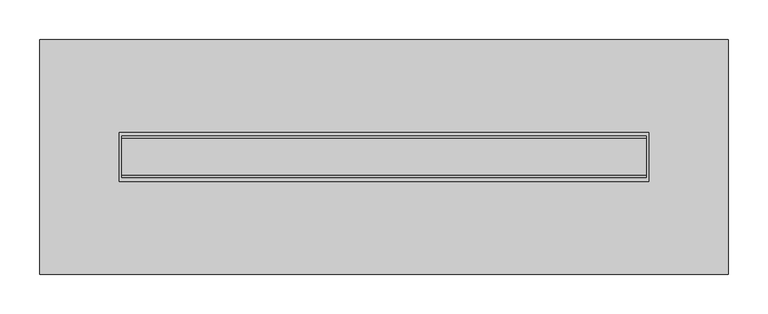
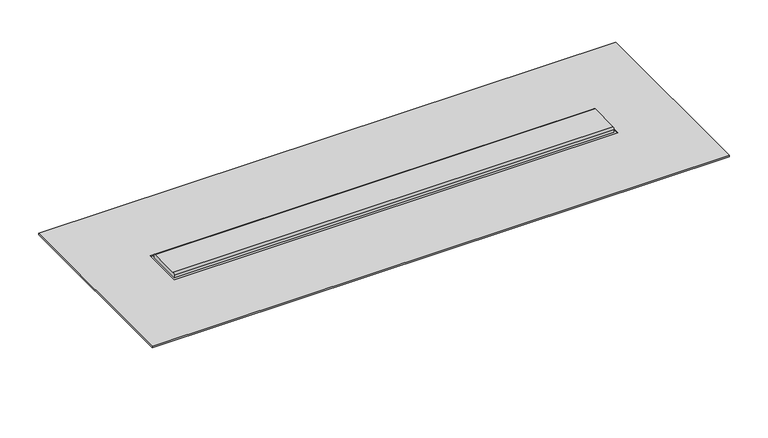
"""IFC4 building model written with IfcOpenShell, lengths in millimetres: sanitary terminal geometry, NLRS_PF_52_UN_Compact TAF Modulo_Easydrain : Compact TAF Modulo Classic."""

import ifcopenshell
import ifcopenshell.guid

model = None  # the IFC model being written
_history = None  # IfcOwnerHistory: only IFC2X3 demands one
_inside = {}  # id of a spatial element -> (the spatial element, [elements in it])
_under = {}  # id of a project, library or spatial element -> (it, [spatial elements below it])
_declared = {}  # id of a project -> (the project, [libraries it declares])
_typed = {}  # id of a type object -> (the type object, [elements of that type])
_made_of = {}  # id of a material, layer set ... -> (it, [elements and type objects made of it])


def new_model(schema):
    """Start an empty IFC model of exactly this schema.

    Asked for "IFC4X3", IfcOpenShell would pick the latest addendum, in which some entities
    have other attributes; the version numbers below select the first issue.
    IFC2X3 requires an IfcOwnerHistory on every rooted entity: one is made here for all.
    """
    global model, _history
    if schema == "IFC4X3":
        model = ifcopenshell.file(schema_version=(4, 3, 0, 0))
    else:
        model = ifcopenshell.file(schema=schema)
    _inside.clear()
    _under.clear()
    _declared.clear()
    _typed.clear()
    _made_of.clear()
    _history = None
    if model.schema == "IFC2X3":
        org = make("IfcOrganization", Name="unknown")
        user = make(
            "IfcPersonAndOrganization",
            ThePerson=make("IfcPerson", FamilyName="unknown"),
            TheOrganization=org,
        )
        app = make(
            "IfcApplication",
            ApplicationDeveloper=org,
            Version="unknown",
            ApplicationFullName="unknown",
            ApplicationIdentifier="unknown",
        )
        _history = make(
            "IfcOwnerHistory",
            OwningUser=user,
            OwningApplication=app,
            ChangeAction="ADDED",
            CreationDate=0,
        )
    return model


def make(cls, **values):
    """One entity of the class cls with the attributes given. An attribute that is None is left unset."""
    return model.create_entity(
        cls, **{name: value for name, value in values.items() if value is not None}
    )


def rooted(cls, **values):
    """An entity with a GlobalId (a new one), such as an element, a storey or a relation."""
    return make(cls, GlobalId=ifcopenshell.guid.new(), OwnerHistory=_history, **values)


def si_unit(unit_type, name, prefix=None):
    """IfcSIUnit, for example si_unit("LENGTHUNIT", "METRE", prefix="MILLI")."""
    return make("IfcSIUnit", UnitType=unit_type, Prefix=prefix, Name=name)


def assignment(units):
    """IfcUnitAssignment: the units of a project."""
    return None if units is None else make("IfcUnitAssignment", Units=units)


def point(xyz):
    """IfcCartesianPoint."""
    return None if xyz is None else make("IfcCartesianPoint", Coordinates=xyz)


def direction(xyz):
    """IfcDirection."""
    return None if xyz is None else make("IfcDirection", DirectionRatios=xyz)


def frame(location, z_axis=None, x_axis=None):
    """IfcAxis2Placement3D, a coordinate frame: its origin and axes. An axis left out is left unset."""
    return make(
        "IfcAxis2Placement3D",
        Location=point(location),
        Axis=direction(z_axis),
        RefDirection=direction(x_axis),
    )


def frame_2d(location, x_axis=None):
    """IfcAxis2Placement2D, a coordinate frame in the plane: its origin and x axis."""
    return make(
        "IfcAxis2Placement2D", Location=point(location), RefDirection=direction(x_axis)
    )


def origin():
    """The frame at (0, 0, 0) with its axes left unset."""
    return frame((0.0, 0.0, 0.0))


def place(relative_to, where):
    """IfcLocalPlacement: puts the frame where relative to a parent placement (None: the world)."""
    return make(
        "IfcLocalPlacement", PlacementRelTo=relative_to, RelativePlacement=where
    )


def context(
    kind, dimensions, precision=None, world=None, true_north=None, identifier=None
):
    """IfcGeometricRepresentationContext, for example the 3D "Model" context."""
    return make(
        "IfcGeometricRepresentationContext",
        ContextIdentifier=identifier,
        ContextType=kind,
        CoordinateSpaceDimension=dimensions,
        Precision=precision,
        WorldCoordinateSystem=world,
        TrueNorth=true_north,
    )


def project(units=None, contexts=None):
    """IfcProject with its units and contexts."""
    return rooted(
        "IfcProject",
        Name="project",
        RepresentationContexts=contexts,
        UnitsInContext=assignment(units),
    )


def spatial(cls, under=None, at=None, **own):
    """A site, building, storey or space (cls), placed at a placement, below another one or the project."""
    s = rooted(cls, ObjectPlacement=at, **own)
    if under is not None:
        _under.setdefault(under.id(), (under, []))[1].append(s)
    return s


def polyline(points):
    """IfcPolyline through the points."""
    return make("IfcPolyline", Points=[point(p) for p in points])


def circle_curve(where, radius):
    """IfcCircle in the frame where."""
    return make("IfcCircle", Position=where, Radius=radius)


def ellipse_curve(where, semi_axis1, semi_axis2):
    """IfcEllipse in the frame where."""
    return make(
        "IfcEllipse", Position=where, SemiAxis1=semi_axis1, SemiAxis2=semi_axis2
    )


def trimmed(basis, trim1, trim2, sense, master):
    """IfcTrimmedCurve: the piece of a basis curve between two trims."""
    return make(
        "IfcTrimmedCurve",
        BasisCurve=basis,
        Trim1=trim1,
        Trim2=trim2,
        SenseAgreement=sense,
        MasterRepresentation=master,
    )


def segment(curve, same_sense, transition):
    """IfcCompositeCurveSegment."""
    return make(
        "IfcCompositeCurveSegment",
        Transition=transition,
        SameSense=same_sense,
        ParentCurve=curve,
    )


def composite_curve(segments, self_intersect=None):
    """IfcCompositeCurve: segments joined end to end."""
    return make("IfcCompositeCurve", Segments=segments, SelfIntersect=self_intersect)


def outline(outer, holes=None, kind="AREA"):
    """IfcArbitraryClosedProfileDef: a profile drawn as a closed curve; with holes, ...WithVoids."""
    if holes is None:
        return make("IfcArbitraryClosedProfileDef", ProfileType=kind, OuterCurve=outer)
    return make(
        "IfcArbitraryProfileDefWithVoids",
        ProfileType=kind,
        OuterCurve=outer,
        InnerCurves=holes,
    )


def extrude(swept, where, along, depth):
    """IfcExtrudedAreaSolid: the profile swept, set in the frame where, extruded along a direction by depth."""
    return make(
        "IfcExtrudedAreaSolid",
        SweptArea=swept,
        Position=where,
        ExtrudedDirection=direction(along),
        Depth=depth,
    )


def shape(context_of_items, identifier, shape_type, items):
    """IfcShapeRepresentation: the items that make up one representation, for example the "Body"."""
    return make(
        "IfcShapeRepresentation",
        ContextOfItems=context_of_items,
        RepresentationIdentifier=identifier,
        RepresentationType=shape_type,
        Items=items,
    )


def source(mapping_origin, context_of_items, identifier, shape_type, items):
    """IfcRepresentationMap: a shape defined once, which mapped items show again and again."""
    return make(
        "IfcRepresentationMap",
        MappingOrigin=mapping_origin,
        MappedRepresentation=shape(context_of_items, identifier, shape_type, items),
    )


def transform(
    local_origin,
    x_axis=None,
    y_axis=None,
    z_axis=None,
    scale=None,
    scale2=None,
    scale3=None,
    uniform=True,
):
    """IfcCartesianTransformationOperator3D, or its non-uniform kind. x_axis, y_axis, z_axis: its Axis1, 2, 3."""
    if uniform:
        return make(
            "IfcCartesianTransformationOperator3D",
            Axis1=direction(x_axis),
            Axis2=direction(y_axis),
            LocalOrigin=point(local_origin),
            Scale=scale,
            Axis3=direction(z_axis),
        )
    return make(
        "IfcCartesianTransformationOperator3DnonUniform",
        Axis1=direction(x_axis),
        Axis2=direction(y_axis),
        LocalOrigin=point(local_origin),
        Scale=scale,
        Axis3=direction(z_axis),
        Scale2=scale2,
        Scale3=scale3,
    )


def mapped(mapping_source, mapping_target):
    """IfcMappedItem: shows the shape of a source again, moved by a transform."""
    return make(
        "IfcMappedItem", MappingSource=mapping_source, MappingTarget=mapping_target
    )


def made_of(thing, what):
    """Note that an element or type object is made of a material, layer set ...; save() writes the relation."""
    if what is not None:
        _made_of.setdefault(what.id(), (what, []))[1].append(thing)
    return thing


def element(
    cls,
    number,
    at=None,
    inside=None,
    cuts=None,
    type_object=None,
    material=None,
    context=None,
    identifier="Body",
    shape_type=None,
    held_by="IfcProductDefinitionShape",
    body=None,
    shapes=None,
    **own,
):
    """One element of the class cls, such as IfcWall. Its Tag is "e" and its number.

    at: its placement. inside: the storey or other place that contains it. cuts: it is an
    opening in that element (IfcRelVoidsElement). A single representation is given by context,
    identifier, shape_type and body (its items); several are given by shapes. held_by: the class
    of the entity that holds the representations. save() writes the other relations.
    """
    e = rooted(cls, Tag="e%d" % number, ObjectPlacement=at, **own)
    if body is not None:
        shapes = [shape(context, identifier, shape_type, body)]
    if shapes is not None:
        e.Representation = make(held_by, Representations=shapes)
    if inside is not None:
        _inside.setdefault(inside.id(), (inside, []))[1].append(e)
    if cuts is not None:
        rooted(
            "IfcRelVoidsElement", RelatingBuildingElement=cuts, RelatedOpeningElement=e
        )
    if type_object is not None:
        _typed.setdefault(type_object.id(), (type_object, []))[1].append(e)
    return made_of(e, material)


def aggregate(whole, parts):
    """IfcRelAggregates: a whole, such as a stair, and the parts it consists of."""
    return rooted("IfcRelAggregates", RelatingObject=whole, RelatedObjects=parts)


def save(model, path):
    """Write the relations noted so far, then the file.

    IfcRelAggregates (storeys below a building ...), IfcRelContainedInSpatialStructure (elements
    in a storey), IfcRelDefinesByType, IfcRelAssociatesMaterial and IfcRelDeclares: one each for
    every whole, place, type object, material and project.
    """
    for whole, parts in _under.values():
        aggregate(whole, parts)
    for where, things in _inside.values():
        rooted(
            "IfcRelContainedInSpatialStructure",
            RelatedElements=things,
            RelatingStructure=where,
        )
    for kind, things in _typed.values():
        rooted("IfcRelDefinesByType", RelatedObjects=things, RelatingType=kind)
    for what, things in _made_of.values():
        rooted("IfcRelAssociatesMaterial", RelatedObjects=things, RelatingMaterial=what)
    for by, libraries in _declared.values():
        rooted("IfcRelDeclares", RelatingContext=by, RelatedDefinitions=libraries)
    model.write(path)


def plane_surface(at):
    """IfcPlane: the flat surface through the origin of the frame at, square to its z axis."""
    return make("IfcPlane", Position=at)


def cylinder_surface(at, radius):
    """IfcCylindricalSurface: all points at the distance radius from the z axis of the frame at."""
    return make("IfcCylindricalSurface", Position=at, Radius=radius)


def advanced_brep(points, edges, surfaces, faces):
    """IfcAdvancedBrep: a solid bounded by faces that lie on surfaces and meet in shared edges.

    An edge is (start, end): straight between two places in points (the first is 0);
    or (start, end, curve); or (start, end, curve, False) where it runs against its curve.
    A face is (place in surfaces, loops), or (place, loops, False) where it looks against
    its surface's normal. A loop lists edges by number (the first is 1), with a minus sign
    where the edge is run from its end to its start. The first loop is the outer one.
    """
    corners = [point(p) for p in points]
    vertices = [make("IfcVertexPoint", VertexGeometry=c) for c in corners]
    made = []
    for start, end, *more in edges:
        made.append(
            make(
                "IfcEdgeCurve",
                EdgeStart=vertices[start],
                EdgeEnd=vertices[end],
                EdgeGeometry=more[0] if more else make("IfcPolyline", Points=[corners[start], corners[end]]),
                SameSense=more[1] if len(more) > 1 else True,
            )
        )
    hull = []
    for where, loops, *sense in faces:
        bounds = []
        for j, loop in enumerate(loops):
            ring = [make("IfcOrientedEdge", EdgeElement=made[abs(k) - 1], Orientation=k > 0) for k in loop]
            bounds.append(
                make(
                    "IfcFaceOuterBound" if j == 0 else "IfcFaceBound",
                    Bound=make("IfcEdgeLoop", EdgeList=ring),
                    Orientation=True,
                )
            )
        hull.append(make("IfcAdvancedFace", Bounds=bounds, FaceSurface=surfaces[where], SameSense=sense[0] if sense else True))
    return make("IfcAdvancedBrep", Outer=make("IfcClosedShell", CfsFaces=hull))


def sanitary_terminal_b1b542f0(model_context):
    return source(origin(), model_context, "Body", "SolidModel", [
        extrude(outline(composite_curve([segment(polyline([(-23.0, 0.0), (23.0, 0.0)]), True, "CONTINUOUS"), segment(trimmed(circle_curve(frame_2d((23.0, -3.0)), 3.0), [point((23.0, 0.0))], [point((26.0, -3.0))], False, "CARTESIAN"), True, "CONTINUOUS"), segment(polyline([(26.0, -3.0), (26.0, -7.0), (-26.0, -7.0), (-26.0, -3.0)]), True, "CONTINUOUS"), segment(trimmed(circle_curve(frame_2d((-23.0, -3.0)), 3.0), [point((-26.0, -3.0))], [point((-23.0, 0.0))], False, "CARTESIAN"), True, "CONTINUOUS")], self_intersect=False)), frame((-229.5, 0.0, 0.0), z_axis=(1.0, 0.0, 0.0), x_axis=(0.0, 1.0, 0.0)), (0.0, 0.0, 1.0), 659.0),
        extrude(outline(polyline([(532.5, 147.5), (532.5, -147.5), (-332.5, -147.5), (-332.5, 147.5), (532.5, 147.5)]), holes=[polyline([(432.5, 31.0), (-232.5, 31.0), (-232.5, -31.0), (432.5, -31.0), (432.5, 31.0)])]), frame((0.0, 0.0, -8.0), z_axis=(0.0, 0.0, 1.0), x_axis=(1.0, 0.0, 0.0)), (0.0, 0.0, 1.0), 2.0),
        advanced_brep(
        [(-232.5, -31.0, -25.0), (-10.0, -31.0, -27.0), (-10.0, -31.0, -90.0), (210.0, -31.0, -90.0), (210.0, -31.0, -27.0), (432.5, -31.0, -25.0), (432.5, -31.0, -9.0), (-232.5, -31.0, -9.0), (100.0, -31.0, -30.0), (100.0, -31.0, -80.0), (432.5, 31.0, -25.0), (210.0, 31.0, -27.0), (210.0, 31.0, -90.0), (-10.0, 31.0, -90.0), (-10.0, 31.0, -27.0), (-232.5, 31.0, -25.0), (-232.5, 31.0, -9.0), (432.5, 31.0, -9.0), (-212.5, 0.0, -25.1797753), (-172.5, 0.0, -25.5393258), (432.5, 30.0, -9.0), (432.5, -30.0, -9.0), (450.0, 47.5, -7.0), (-250.0, 47.5, -7.0), (-250.0, -64.5, -7.0), (450.0, -64.5, -7.0), (-232.5, -30.0, -9.0), (-232.5, 30.0, -9.0), (372.5, 0.0, -25.5393258), (412.5, 0.0, -25.1797753), (100.0, -50.0, -30.0), (100.0, -50.0, -80.0), (450.0, 47.5, -9.0), (450.0, -64.5, -9.0), (-250.0, -64.5, -9.0), (-250.0, 47.5, -9.0), (-212.5, 0.0, -90.0), (-172.5, 0.0, -90.0), (372.5, 0.0, -90.0), (412.5, 0.0, -90.0)],
        [
            (0, 1),
            (1, 2),
            (2, 3),
            (3, 4),
            (4, 5),
            (5, 6),
            (6, 7),
            (7, 0),
            (8, 9, circle_curve(frame((100.0, -31.0, -55.0), z_axis=(0.0, 1.0, 0.0), x_axis=(0.0, 0.0, -1.0)), 25.0)),
            (9, 8, circle_curve(frame((100.0, -31.0, -55.0), z_axis=(0.0, 1.0, 0.0), x_axis=(0.0, 0.0, -1.0)), 25.0)),
            (10, 11),
            (11, 12),
            (12, 13),
            (13, 14),
            (14, 15),
            (15, 16),
            (16, 17),
            (17, 10),
            (0, 15),
            (14, 1),
            (18, 19, ellipse_curve(frame((-192.5, 0.0, -25.3595506), z_axis=(0.00898840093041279, 0.0, 0.9999596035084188), x_axis=(-0.9999596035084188, 0.0, 0.008988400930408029)), 20.000808, 20.0)),
            (19, 18, ellipse_curve(frame((-192.5, 0.0, -25.3595506), z_axis=(0.00898840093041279, 0.0, 0.9999596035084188), x_axis=(-0.9999596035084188, 0.0, 0.008988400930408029)), 20.000808, 20.0)),
            (5, 10),
            (17, 20),
            (20, 21),
            (21, 6),
            (22, 23),
            (23, 24),
            (24, 25),
            (25, 22),
            (7, 26),
            (26, 27),
            (27, 16),
            (13, 2),
            (12, 3),
            (11, 4),
            (28, 29, ellipse_curve(frame((392.5, 0.0, -25.3595506), z_axis=(-0.00898840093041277, 0.0, 0.9999596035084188), x_axis=(0.9999596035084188, 0.0, 0.00898840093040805)), 20.000808, 20.0)),
            (29, 28, ellipse_curve(frame((392.5, 0.0, -25.3595506), z_axis=(-0.00898840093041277, 0.0, 0.9999596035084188), x_axis=(0.9999596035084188, 0.0, 0.00898840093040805)), 20.000808, 20.0)),
            (30, 31, circle_curve(frame((100.0, -50.0, -55.0), z_axis=(0.0, -1.0, 0.0), x_axis=(0.0, 0.0, -1.0)), 25.0)),
            (31, 30, circle_curve(frame((100.0, -50.0, -55.0), z_axis=(0.0, -1.0, 0.0), x_axis=(0.0, 0.0, -1.0)), 25.0)),
            (31, 9),
            (8, 30),
            (32, 33),
            (33, 34),
            (34, 35),
            (35, 32),
            (22, 32),
            (35, 23),
            (34, 24),
            (33, 25),
            (36, 37, circle_curve(frame((-192.5, 0.0, -90.0), z_axis=(0.0, 0.0, -1.0), x_axis=(1.0, 0.0, 0.0)), 20.0)),
            (37, 36, circle_curve(frame((-192.5, 0.0, -90.0), z_axis=(0.0, 0.0, -1.0), x_axis=(1.0, 0.0, 0.0)), 20.0)),
            (38, 39, circle_curve(frame((392.5, 0.0, -90.0), z_axis=(0.0, 0.0, -1.0), x_axis=(1.0, 0.0, 0.0)), 20.0)),
            (39, 38, circle_curve(frame((392.5, 0.0, -90.0), z_axis=(0.0, 0.0, -1.0), x_axis=(1.0, 0.0, 0.0)), 20.0)),
            (37, 19),
            (18, 36),
            (39, 29),
            (28, 38),
        ],
        [
            plane_surface(frame((-232.5, -31.0, -25.0), z_axis=(0.0, -1.0, 0.0), x_axis=(0.9999596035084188, 0.0, -0.00898840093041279))),
            plane_surface(frame((-232.5, 31.0, -25.0), z_axis=(0.0, 1.0, 0.0), x_axis=(-0.9999596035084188, 0.0, 0.00898840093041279))),
            plane_surface(frame((-232.5, -31.0, -25.0), z_axis=(-0.00898840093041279, 0.0, -0.9999596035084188), x_axis=(0.0, 1.0, 0.0))),
            plane_surface(frame((432.5, -31.0, -25.0), z_axis=(1.0, 0.0, 0.0), x_axis=(0.0, 1.0, 0.0))),
            plane_surface(frame((432.5, -31.0, -7.0), z_axis=(0.0, 0.0, 1.0), x_axis=(0.0, 1.0, 0.0))),
            plane_surface(frame((-232.5, -31.0, -7.0), z_axis=(-1.0, 0.0, 0.0), x_axis=(0.0, 1.0, 0.0))),
            plane_surface(frame((-10.0, -31.0, -27.0), z_axis=(-1.0, 0.0, 0.0), x_axis=(0.0, 1.0, 0.0))),
            plane_surface(frame((-10.0, -31.0, -90.0), z_axis=(0.0, 0.0, -1.0), x_axis=(0.0, 1.0, 0.0))),
            plane_surface(frame((210.0, -31.0, -90.0), z_axis=(1.0, 0.0, 0.0), x_axis=(0.0, 1.0, 0.0))),
            plane_surface(frame((210.0, -31.0, -27.0), z_axis=(0.00898840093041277, 0.0, -0.9999596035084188), x_axis=(0.0, 1.0, 0.0))),
            plane_surface(frame((100.0, -50.0, -55.0), z_axis=(0.0, -1.0, 0.0), x_axis=(1.0, 0.0, 0.0))),
            cylinder_surface(frame((100.0, 0.0, -55.0), z_axis=(0.0, 1.0, 0.0), x_axis=(0.0, 0.0, -1.0)), 25.0),
            plane_surface(frame((432.5, 30.0, -9.0), z_axis=(0.0, 0.0, -1.0), x_axis=(0.0, 1.0, 0.0))),
            plane_surface(frame((450.0, 47.5, -7.0), z_axis=(0.0, 1.0, 0.0), x_axis=(0.0, 0.0, -1.0))),
            plane_surface(frame((-250.0, 47.5, -7.0), z_axis=(-1.0, 0.0, 0.0), x_axis=(0.0, 0.0, -1.0))),
            plane_surface(frame((-250.0, -64.5, -7.0), z_axis=(0.0, -1.0, 0.0), x_axis=(0.0, 0.0, -1.0))),
            plane_surface(frame((450.0, -64.5, -7.0), z_axis=(1.0, 0.0, 0.0), x_axis=(0.0, 0.0, -1.0))),
            plane_surface(frame((-172.5, 0.0, -90.0), z_axis=(0.0, 0.0, -1.0), x_axis=(0.0, -1.0, 0.0))),
            cylinder_surface(frame((-192.5, 0.0, -90.0), z_axis=(0.0, 0.0, 1.0), x_axis=(1.0, 0.0, 0.0)), 20.0),
            cylinder_surface(frame((392.5, 0.0, 0.0), z_axis=(0.0, 0.0, 1.0), x_axis=(1.0, 0.0, 0.0)), 20.0),
        ],
        [
            (0, [[1, 2, 3, 4, 5, 6, 7, 8], [9, 10]]),
            (1, [[11, 12, 13, 14, 15, 16, 17, 18]]),
            (2, [[-1, 19, -15, 20], [21, 22]]),
            (3, [[23, -18, 24, 25, 26, -6]]),
            (4, [[27, 28, 29, 30]]),
            (5, [[-19, -8, 31, 32, 33, -16]]),
            (6, [[-2, -20, -14, 34]]),
            (7, [[-3, -34, -13, 35]]),
            (8, [[-4, -35, -12, 36]]),
            (9, [[-5, -36, -11, -23], [37, 38]]),
            (10, [[39, 40]]),
            (11, [[-40, 41, -9, 42]]),
            (11, [[-39, -42, -10, -41]]),
            (12, [[43, 44, 45, 46], [-7, -26, -25, -24, -17, -33, -32, -31]]),
            (13, [[-27, 47, -46, 48]]),
            (14, [[-28, -48, -45, 49]]),
            (15, [[-29, -49, -44, 50]]),
            (16, [[-30, -50, -43, -47]]),
            (17, [[51, 52]]),
            (17, [[53, 54]]),
            (18, [[-52, 55, -21, 56]]),
            (18, [[-51, -56, -22, -55]]),
            (19, [[-54, 57, -37, 58]]),
            (19, [[-53, -58, -38, -57]]),
        ],
    ),
    ])


if __name__ == "__main__":
    model = new_model("IFC4")
    model_context = context("Model", 3, world=origin())
    ifc_project = project(units=[si_unit("LENGTHUNIT", "METRE", prefix="MILLI")], contexts=[model_context])
    site = spatial("IfcSite", under=ifc_project)
    building = spatial("IfcBuilding", under=site)
    placement = place(None, origin())
    sanitary_terminal_shape = sanitary_terminal_b1b542f0(model_context)
    element("IfcSanitaryTerminal", 1, ObjectType="NLRS_PF_52_UN_Compact TAF Modulo_Easydrain : Compact TAF Modulo Classic", at=placement, inside=building, context=model_context, shape_type="MappedRepresentation", body=[
        mapped(sanitary_terminal_shape, transform((0.0, 0.0, 0.0), x_axis=(1.0, 0.0, 0.0), y_axis=(0.0, 1.0, 0.0), z_axis=(0.0, 0.0, 1.0))),
    ])
    save(model, "model.ifc")
